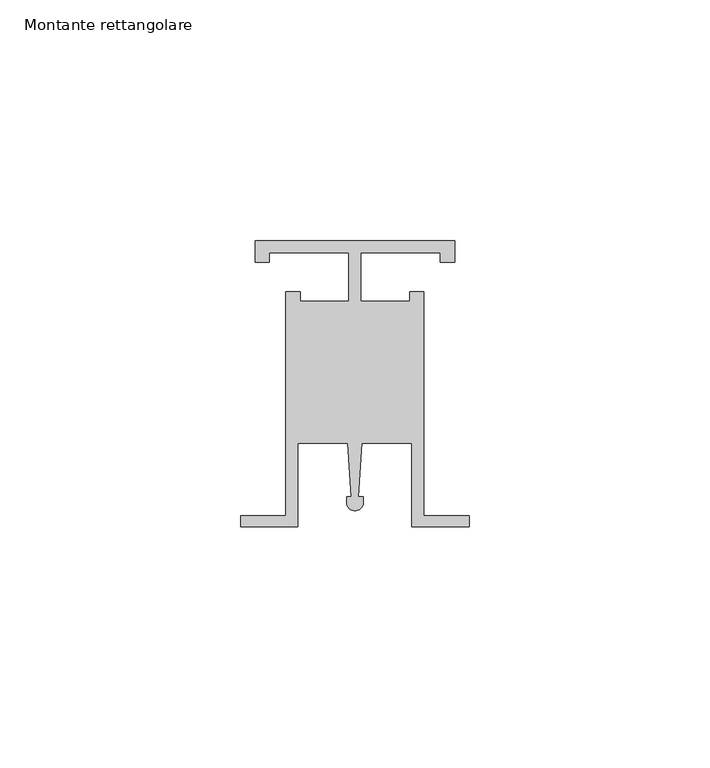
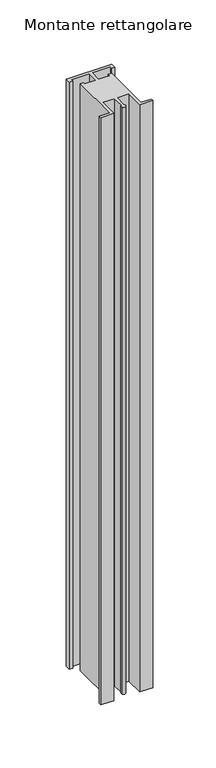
"""IFC4 building model written with IfcOpenShell, lengths in millimetres: member geometry, Montante rettangolare : Verde Profilo's Uprights."""

from ifc_helpers import new_model, si_unit, point, frame, frame_2d, origin, place, context, project, spatial, polyline, circle_curve, trimmed, segment, composite_curve, outline, extrude, source, transform, mapped, element, save


def montante_rettangolare_140c7172(model_context):
    return source(origin(), model_context, "Body", "SweptSolid", [
        extrude(outline(composite_curve([segment(polyline([(-44.5191881, 0.0), (-3.0, 0.0), (-3.0, -4.4643434), (-5.9763281, -4.4643434), (-5.9763281, -2.4801246), (-22.5192241, -2.4801246), (-22.5192241, -12.5992217), (-12.4008018, -12.5992217), (-12.4008018, -10.6150029), (-9.4244736, -10.6150029), (-9.4244736, -57.1992491), (0.0, -57.1992491), (0.0, -59.5229914), (-11.9045983, -59.5229914), (-11.9045983, -42.1200913), (-22.2878429, -42.1200913), (-23.0155567, -53.2310496), (-22.0219337, -53.2310496), (-22.0219337, -54.4070013)]), True, "CONTINUOUS"), segment(trimmed(circle_curve(frame_2d((-23.7595941, -54.4070013)), 1.7376604), [point((-22.0219337, -54.4070013))], [point((-25.4972545, -54.4070013))], False, "CARTESIAN"), True, "CONTINUOUS"), segment(polyline([(-25.4972545, -54.4070013), (-25.4972545, -53.2310496), (-24.5036314, -53.2310496), (-25.2313452, -42.1200913), (-35.6145898, -42.1200913), (-35.6145898, -59.5229914), (-47.5191881, -59.5229914), (-47.5191881, -57.1992491), (-38.0947145, -57.1992491), (-38.0947145, -10.6150029), (-35.1183863, -10.6150029), (-35.1183863, -12.5992217), (-24.999964, -12.5992217), (-24.999964, -2.4801246), (-41.54286, -2.4801246), (-41.54286, -4.4643434), (-44.5191881, -4.4643434), (-44.5191881, 0.0)]), True, "CONTINUOUS")], self_intersect=False)), frame((0.0, 0.0, -567.5198754), z_axis=(0.0, 0.0, 1.0), x_axis=(1.0, 0.0, 0.0)), (0.0, 0.0, 1.0), 567.5198754),
    ])


if __name__ == "__main__":
    model = new_model("IFC4")
    model_context = context("Model", 3, world=origin())
    ifc_project = project(units=[si_unit("LENGTHUNIT", "METRE", prefix="MILLI")], contexts=[model_context])
    site = spatial("IfcSite", under=ifc_project)
    building = spatial("IfcBuilding", under=site)
    placement = place(None, origin())
    montante_rettangolare_shape = montante_rettangolare_140c7172(model_context)
    element("IfcMember", 1, ObjectType="Montante rettangolare : Verde Profilo's Uprights", at=placement, inside=building, context=model_context, shape_type="MappedRepresentation", body=[
        mapped(montante_rettangolare_shape, transform((0.0, 0.0, 0.0), x_axis=(1.0, 0.0, 0.0), y_axis=(0.0, 1.0, 0.0), z_axis=(0.0, 0.0, 1.0))),
    ])
    save(model, "model.ifc")
